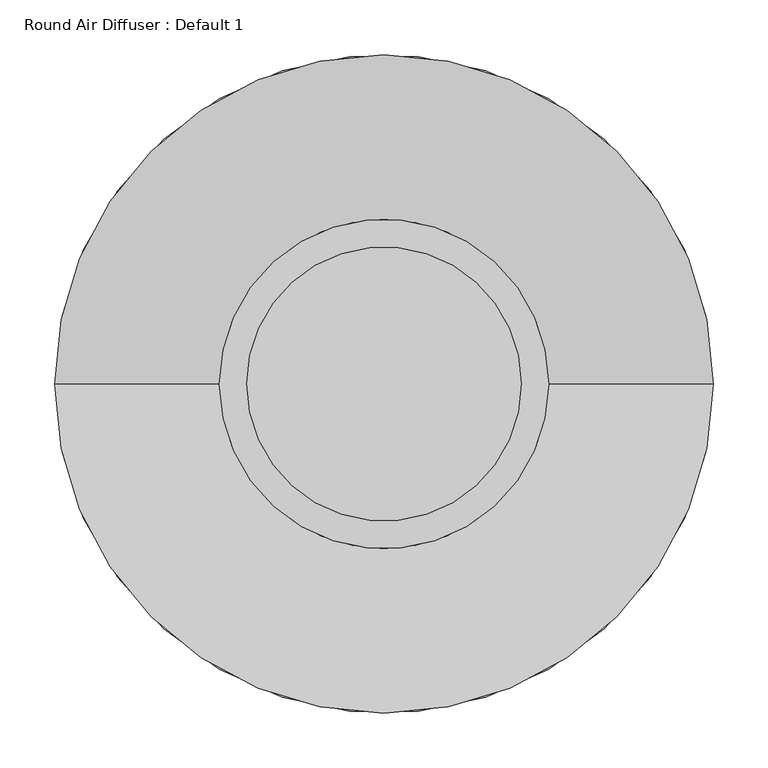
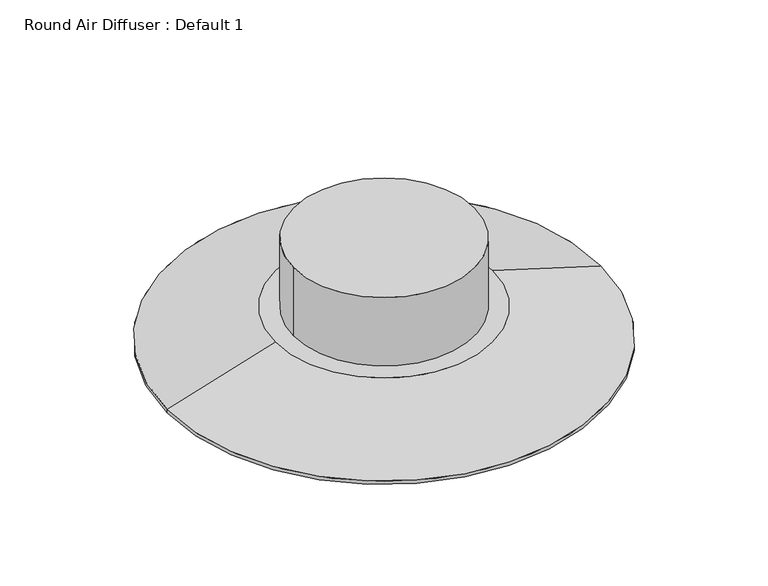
"""IFC4 building model written with IfcOpenShell, lengths in millimetres: proxy geometry, Round Air Diffuser : Default 1."""

import ifcopenshell
import ifcopenshell.guid

model = None  # the IFC model being written
_history = None  # IfcOwnerHistory: only IFC2X3 demands one
_inside = {}  # id of a spatial element -> (the spatial element, [elements in it])
_under = {}  # id of a project, library or spatial element -> (it, [spatial elements below it])
_declared = {}  # id of a project -> (the project, [libraries it declares])
_typed = {}  # id of a type object -> (the type object, [elements of that type])
_made_of = {}  # id of a material, layer set ... -> (it, [elements and type objects made of it])


def new_model(schema):
    """Start an empty IFC model of exactly this schema.

    Asked for "IFC4X3", IfcOpenShell would pick the latest addendum, in which some entities
    have other attributes; the version numbers below select the first issue.
    IFC2X3 requires an IfcOwnerHistory on every rooted entity: one is made here for all.
    """
    global model, _history
    if schema == "IFC4X3":
        model = ifcopenshell.file(schema_version=(4, 3, 0, 0))
    else:
        model = ifcopenshell.file(schema=schema)
    _inside.clear()
    _under.clear()
    _declared.clear()
    _typed.clear()
    _made_of.clear()
    _history = None
    if model.schema == "IFC2X3":
        org = make("IfcOrganization", Name="unknown")
        user = make(
            "IfcPersonAndOrganization",
            ThePerson=make("IfcPerson", FamilyName="unknown"),
            TheOrganization=org,
        )
        app = make(
            "IfcApplication",
            ApplicationDeveloper=org,
            Version="unknown",
            ApplicationFullName="unknown",
            ApplicationIdentifier="unknown",
        )
        _history = make(
            "IfcOwnerHistory",
            OwningUser=user,
            OwningApplication=app,
            ChangeAction="ADDED",
            CreationDate=0,
        )
    return model


def make(cls, **values):
    """One entity of the class cls with the attributes given. An attribute that is None is left unset."""
    return model.create_entity(
        cls, **{name: value for name, value in values.items() if value is not None}
    )


def rooted(cls, **values):
    """An entity with a GlobalId (a new one), such as an element, a storey or a relation."""
    return make(cls, GlobalId=ifcopenshell.guid.new(), OwnerHistory=_history, **values)


def si_unit(unit_type, name, prefix=None):
    """IfcSIUnit, for example si_unit("LENGTHUNIT", "METRE", prefix="MILLI")."""
    return make("IfcSIUnit", UnitType=unit_type, Prefix=prefix, Name=name)


def assignment(units):
    """IfcUnitAssignment: the units of a project."""
    return None if units is None else make("IfcUnitAssignment", Units=units)


def point(xyz):
    """IfcCartesianPoint."""
    return None if xyz is None else make("IfcCartesianPoint", Coordinates=xyz)


def direction(xyz):
    """IfcDirection."""
    return None if xyz is None else make("IfcDirection", DirectionRatios=xyz)


def frame(location, z_axis=None, x_axis=None):
    """IfcAxis2Placement3D, a coordinate frame: its origin and axes. An axis left out is left unset."""
    return make(
        "IfcAxis2Placement3D",
        Location=point(location),
        Axis=direction(z_axis),
        RefDirection=direction(x_axis),
    )


def frame_2d(location, x_axis=None):
    """IfcAxis2Placement2D, a coordinate frame in the plane: its origin and x axis."""
    return make(
        "IfcAxis2Placement2D", Location=point(location), RefDirection=direction(x_axis)
    )


def origin():
    """The frame at (0, 0, 0) with its axes left unset."""
    return frame((0.0, 0.0, 0.0))


def origin_2d():
    """The frame at (0, 0) in the plane with its x axis left unset."""
    return frame_2d((0.0, 0.0))


def place(relative_to, where):
    """IfcLocalPlacement: puts the frame where relative to a parent placement (None: the world)."""
    return make(
        "IfcLocalPlacement", PlacementRelTo=relative_to, RelativePlacement=where
    )


def context(
    kind, dimensions, precision=None, world=None, true_north=None, identifier=None
):
    """IfcGeometricRepresentationContext, for example the 3D "Model" context."""
    return make(
        "IfcGeometricRepresentationContext",
        ContextIdentifier=identifier,
        ContextType=kind,
        CoordinateSpaceDimension=dimensions,
        Precision=precision,
        WorldCoordinateSystem=world,
        TrueNorth=true_north,
    )


def project(units=None, contexts=None):
    """IfcProject with its units and contexts."""
    return rooted(
        "IfcProject",
        Name="project",
        RepresentationContexts=contexts,
        UnitsInContext=assignment(units),
    )


def spatial(cls, under=None, at=None, **own):
    """A site, building, storey or space (cls), placed at a placement, below another one or the project."""
    s = rooted(cls, ObjectPlacement=at, **own)
    if under is not None:
        _under.setdefault(under.id(), (under, []))[1].append(s)
    return s


def polyline(points):
    """IfcPolyline through the points."""
    return make("IfcPolyline", Points=[point(p) for p in points])


def circle_curve(where, radius):
    """IfcCircle in the frame where."""
    return make("IfcCircle", Position=where, Radius=radius)


def trimmed(basis, trim1, trim2, sense, master):
    """IfcTrimmedCurve: the piece of a basis curve between two trims."""
    return make(
        "IfcTrimmedCurve",
        BasisCurve=basis,
        Trim1=trim1,
        Trim2=trim2,
        SenseAgreement=sense,
        MasterRepresentation=master,
    )


def segment(curve, same_sense, transition):
    """IfcCompositeCurveSegment."""
    return make(
        "IfcCompositeCurveSegment",
        Transition=transition,
        SameSense=same_sense,
        ParentCurve=curve,
    )


def composite_curve(segments, self_intersect=None):
    """IfcCompositeCurve: segments joined end to end."""
    return make("IfcCompositeCurve", Segments=segments, SelfIntersect=self_intersect)


def outline(outer, holes=None, kind="AREA"):
    """IfcArbitraryClosedProfileDef: a profile drawn as a closed curve; with holes, ...WithVoids."""
    if holes is None:
        return make("IfcArbitraryClosedProfileDef", ProfileType=kind, OuterCurve=outer)
    return make(
        "IfcArbitraryProfileDefWithVoids",
        ProfileType=kind,
        OuterCurve=outer,
        InnerCurves=holes,
    )


def extrude(swept, where, along, depth):
    """IfcExtrudedAreaSolid: the profile swept, set in the frame where, extruded along a direction by depth."""
    return make(
        "IfcExtrudedAreaSolid",
        SweptArea=swept,
        Position=where,
        ExtrudedDirection=direction(along),
        Depth=depth,
    )


def shape(context_of_items, identifier, shape_type, items):
    """IfcShapeRepresentation: the items that make up one representation, for example the "Body"."""
    return make(
        "IfcShapeRepresentation",
        ContextOfItems=context_of_items,
        RepresentationIdentifier=identifier,
        RepresentationType=shape_type,
        Items=items,
    )


def source(mapping_origin, context_of_items, identifier, shape_type, items):
    """IfcRepresentationMap: a shape defined once, which mapped items show again and again."""
    return make(
        "IfcRepresentationMap",
        MappingOrigin=mapping_origin,
        MappedRepresentation=shape(context_of_items, identifier, shape_type, items),
    )


def transform(
    local_origin,
    x_axis=None,
    y_axis=None,
    z_axis=None,
    scale=None,
    scale2=None,
    scale3=None,
    uniform=True,
):
    """IfcCartesianTransformationOperator3D, or its non-uniform kind. x_axis, y_axis, z_axis: its Axis1, 2, 3."""
    if uniform:
        return make(
            "IfcCartesianTransformationOperator3D",
            Axis1=direction(x_axis),
            Axis2=direction(y_axis),
            LocalOrigin=point(local_origin),
            Scale=scale,
            Axis3=direction(z_axis),
        )
    return make(
        "IfcCartesianTransformationOperator3DnonUniform",
        Axis1=direction(x_axis),
        Axis2=direction(y_axis),
        LocalOrigin=point(local_origin),
        Scale=scale,
        Axis3=direction(z_axis),
        Scale2=scale2,
        Scale3=scale3,
    )


def mapped(mapping_source, mapping_target):
    """IfcMappedItem: shows the shape of a source again, moved by a transform."""
    return make(
        "IfcMappedItem", MappingSource=mapping_source, MappingTarget=mapping_target
    )


def made_of(thing, what):
    """Note that an element or type object is made of a material, layer set ...; save() writes the relation."""
    if what is not None:
        _made_of.setdefault(what.id(), (what, []))[1].append(thing)
    return thing


def element(
    cls,
    number,
    at=None,
    inside=None,
    cuts=None,
    type_object=None,
    material=None,
    context=None,
    identifier="Body",
    shape_type=None,
    held_by="IfcProductDefinitionShape",
    body=None,
    shapes=None,
    **own,
):
    """One element of the class cls, such as IfcWall. Its Tag is "e" and its number.

    at: its placement. inside: the storey or other place that contains it. cuts: it is an
    opening in that element (IfcRelVoidsElement). A single representation is given by context,
    identifier, shape_type and body (its items); several are given by shapes. held_by: the class
    of the entity that holds the representations. save() writes the other relations.
    """
    e = rooted(cls, Tag="e%d" % number, ObjectPlacement=at, **own)
    if body is not None:
        shapes = [shape(context, identifier, shape_type, body)]
    if shapes is not None:
        e.Representation = make(held_by, Representations=shapes)
    if inside is not None:
        _inside.setdefault(inside.id(), (inside, []))[1].append(e)
    if cuts is not None:
        rooted(
            "IfcRelVoidsElement", RelatingBuildingElement=cuts, RelatedOpeningElement=e
        )
    if type_object is not None:
        _typed.setdefault(type_object.id(), (type_object, []))[1].append(e)
    return made_of(e, material)


def aggregate(whole, parts):
    """IfcRelAggregates: a whole, such as a stair, and the parts it consists of."""
    return rooted("IfcRelAggregates", RelatingObject=whole, RelatedObjects=parts)


def save(model, path):
    """Write the relations noted so far, then the file.

    IfcRelAggregates (storeys below a building ...), IfcRelContainedInSpatialStructure (elements
    in a storey), IfcRelDefinesByType, IfcRelAssociatesMaterial and IfcRelDeclares: one each for
    every whole, place, type object, material and project.
    """
    for whole, parts in _under.values():
        aggregate(whole, parts)
    for where, things in _inside.values():
        rooted(
            "IfcRelContainedInSpatialStructure",
            RelatedElements=things,
            RelatingStructure=where,
        )
    for kind, things in _typed.values():
        rooted("IfcRelDefinesByType", RelatedObjects=things, RelatingType=kind)
    for what, things in _made_of.values():
        rooted("IfcRelAssociatesMaterial", RelatedObjects=things, RelatingMaterial=what)
    for by, libraries in _declared.values():
        rooted("IfcRelDeclares", RelatingContext=by, RelatedDefinitions=libraries)
    model.write(path)


def plane_surface(at):
    """IfcPlane: the flat surface through the origin of the frame at, square to its z axis."""
    return make("IfcPlane", Position=at)


def revolved_surface(curve, axis_point, axis_direction):
    """IfcSurfaceOfRevolution: the curve turned about the line through axis_point along axis_direction."""
    return make(
        "IfcSurfaceOfRevolution",
        SweptCurve=make("IfcArbitraryOpenProfileDef", ProfileType="CURVE", Curve=curve),
        AxisPosition=make("IfcAxis1Placement", Location=point(axis_point), Axis=direction(axis_direction)),
    )


def advanced_brep(points, edges, surfaces, faces):
    """IfcAdvancedBrep: a solid bounded by faces that lie on surfaces and meet in shared edges.

    An edge is (start, end): straight between two places in points (the first is 0);
    or (start, end, curve); or (start, end, curve, False) where it runs against its curve.
    A face is (place in surfaces, loops), or (place, loops, False) where it looks against
    its surface's normal. A loop lists edges by number (the first is 1), with a minus sign
    where the edge is run from its end to its start. The first loop is the outer one.
    """
    corners = [point(p) for p in points]
    vertices = [make("IfcVertexPoint", VertexGeometry=c) for c in corners]
    made = []
    for start, end, *more in edges:
        made.append(
            make(
                "IfcEdgeCurve",
                EdgeStart=vertices[start],
                EdgeEnd=vertices[end],
                EdgeGeometry=more[0] if more else make("IfcPolyline", Points=[corners[start], corners[end]]),
                SameSense=more[1] if len(more) > 1 else True,
            )
        )
    hull = []
    for where, loops, *sense in faces:
        bounds = []
        for j, loop in enumerate(loops):
            ring = [make("IfcOrientedEdge", EdgeElement=made[abs(k) - 1], Orientation=k > 0) for k in loop]
            bounds.append(
                make(
                    "IfcFaceOuterBound" if j == 0 else "IfcFaceBound",
                    Bound=make("IfcEdgeLoop", EdgeList=ring),
                    Orientation=True,
                )
            )
        hull.append(make("IfcAdvancedFace", Bounds=bounds, FaceSurface=surfaces[where], SameSense=sense[0] if sense else True))
    return make("IfcAdvancedBrep", Outer=make("IfcClosedShell", CfsFaces=hull))


def round_air_diffuser_default_1_f7335ba9(model_context):
    return source(origin(), model_context, "Body", "SolidModel", [
        extrude(outline(composite_curve([segment(trimmed(circle_curve(origin_2d(), 125.0), [point((-125.0, 0.0))], [point((125.0, 0.0))], False, "CARTESIAN"), True, "CONTINUOUS"), segment(trimmed(circle_curve(origin_2d(), 125.0), [point((125.0, 0.0))], [point((-125.0, 0.0))], False, "CARTESIAN"), True, "CONTINUOUS")], self_intersect=False)), frame((0.0, 0.0, 2484.4), z_axis=(0.0, 0.0, 1.0), x_axis=(1.0, 0.0, 0.0)), (0.0, 0.0, 1.0), 100.0),
        extrude(outline(composite_curve([segment(trimmed(circle_curve(origin_2d(), 166.5), [point((-166.5, 0.0))], [point((166.5, 0.0))], False, "CARTESIAN"), True, "CONTINUOUS"), segment(trimmed(circle_curve(origin_2d(), 166.5), [point((166.5, 0.0))], [point((-166.5, 0.0))], False, "CARTESIAN"), True, "CONTINUOUS")], self_intersect=False)), frame((0.0, 0.0, 2423.4), z_axis=(0.0, 0.0, 1.0), x_axis=(1.0, 0.0, 0.0)), (0.0, 0.0, 1.0), 5.0),
        advanced_brep(
        [(-150.0, 0.0, 2484.4), (150.0, 0.0, 2484.4), (-300.0, 0.0, 2438.4), (300.0, 0.0, 2438.4)],
        [
            (0, 1, circle_curve(frame((0.0, 0.0, 2484.4), z_axis=(0.0, 0.0, 1.0), x_axis=(-1.0, 0.0, 0.0)), 150.0)),
            (1, 0, circle_curve(frame((0.0, 0.0, 2484.4), z_axis=(0.0, 0.0, 1.0), x_axis=(1.0, 0.0, 0.0)), 150.0)),
            (2, 3, circle_curve(frame((0.0, 0.0, 2438.4), z_axis=(0.0, 0.0, -1.0), x_axis=(1.0, 0.0, 0.0)), 300.0)),
            (3, 2, circle_curve(frame((0.0, 0.0, 2438.4), z_axis=(0.0, 0.0, -1.0), x_axis=(-1.0, 0.0, 0.0)), 300.0)),
            (3, 1),
            (0, 2),
        ],
        [
            plane_surface(frame((0.0, 0.0, 2484.4), z_axis=(0.0, 0.0, 1.0), x_axis=(0.0, -1.0, 0.0))),
            plane_surface(frame((0.0, 0.0, 2438.4), z_axis=(0.0, 0.0, -1.0), x_axis=(0.0, -1.0, 0.0))),
            revolved_surface(polyline([(-150.0, 0.0, 2484.4), (-300.0, 0.0, 2438.4)]), (0.0, 0.0, 2530.4), (0.0, 0.0, -1.0)),
            revolved_surface(polyline([(150.0, 0.0, 2484.4), (300.0, 0.0, 2438.4)]), (0.0, 0.0, 2530.4), (0.0, 0.0, -1.0)),
        ],
        [
            (0, [[1, 2]]),
            (1, [[3, 4]]),
            (2, [[-4, 5, -1, 6]]),
            (3, [[-3, -6, -2, -5]]),
        ],
    ),
        extrude(outline(composite_curve([segment(trimmed(circle_curve(origin_2d(), 300.0), [point((-300.0, 0.0))], [point((300.0, 0.0))], False, "CARTESIAN"), True, "CONTINUOUS"), segment(trimmed(circle_curve(origin_2d(), 300.0), [point((300.0, 0.0))], [point((-300.0, 0.0))], False, "CARTESIAN"), True, "CONTINUOUS")], self_intersect=False), holes=[composite_curve([segment(trimmed(circle_curve(origin_2d(), 274.6), [point((-274.6, 0.0))], [point((274.6, 0.0))], True, "CARTESIAN"), True, "CONTINUOUS"), segment(trimmed(circle_curve(origin_2d(), 274.6), [point((274.6, 0.0))], [point((-274.6, 0.0))], True, "CARTESIAN"), True, "CONTINUOUS")], self_intersect=False)]), frame((0.0, 0.0, 2433.4), z_axis=(0.0, 0.0, 1.0), x_axis=(1.0, 0.0, 0.0)), (0.0, 0.0, 1.0), 5.0),
    ])


if __name__ == "__main__":
    model = new_model("IFC4")
    model_context = context("Model", 3, world=origin())
    ifc_project = project(units=[si_unit("LENGTHUNIT", "METRE", prefix="MILLI")], contexts=[model_context])
    site = spatial("IfcSite", under=ifc_project)
    building = spatial("IfcBuilding", under=site)
    placement = place(None, origin())
    round_air_diffuser_default_1_shape = round_air_diffuser_default_1_f7335ba9(model_context)
    element("IfcBuildingElementProxy", 1, Name="Round Air Diffuser : Default 1", ObjectType="Round Air Diffuser : Default 1", at=placement, inside=building, context=model_context, shape_type="MappedRepresentation", body=[
        mapped(round_air_diffuser_default_1_shape, transform((0.0, 0.0, 0.0), x_axis=(1.0, 0.0, 0.0), y_axis=(0.0, 1.0, 0.0), z_axis=(0.0, 0.0, 1.0))),
    ])
    save(model, "model.ifc")
